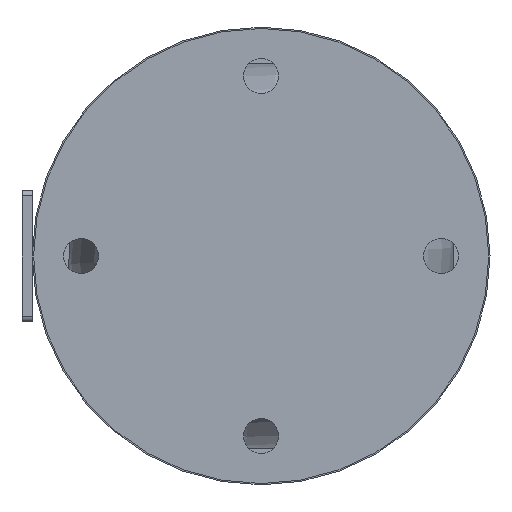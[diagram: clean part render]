
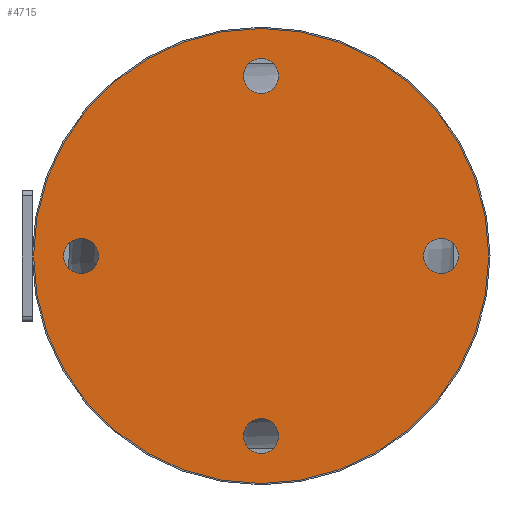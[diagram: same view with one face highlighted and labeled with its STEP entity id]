
A CAD part, front view. The second image highlights one B-rep face of the part: STEP entity #4715.
In plain terms, the highlighted planar face has unit normal (0, -1, 0).
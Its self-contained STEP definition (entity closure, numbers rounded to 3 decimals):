
#27 = VERTEX_POINT ( 'NONE', #2537 ) ;
#251 = CIRCLE ( 'NONE', #4380, 3.4 ) ;
#318 = AXIS2_PLACEMENT_3D ( 'NONE', #678, #2858, #1679 ) ;
#505 = DIRECTION ( 'NONE',  ( 0., 1., 0. ) ) ;
#524 = CIRCLE ( 'NONE', #4531, 3.4 ) ;
#606 = ORIENTED_EDGE ( 'NONE', *, *, #5813, .T. ) ;
#658 = AXIS2_PLACEMENT_3D ( 'NONE', #4307, #505, #2679 ) ;
#678 = CARTESIAN_POINT ( 'NONE',  ( 0., -1.5, 0. ) ) ;
#781 = CARTESIAN_POINT ( 'NONE',  ( 35., -1.5, 3.4 ) ) ;
#846 = EDGE_CURVE ( 'NONE', #3614, #2598, #6275, .T. ) ;
#896 = AXIS2_PLACEMENT_3D ( 'NONE', #3464, #3572, #2486 ) ;
#899 = EDGE_CURVE ( 'NONE', #6517, #6834, #2045, .T. ) ;
#971 = AXIS2_PLACEMENT_3D ( 'NONE', #3457, #5152, #5048 ) ;
#1031 = CARTESIAN_POINT ( 'NONE',  ( 0., -1.5, 35. ) ) ;
#1042 = EDGE_CURVE ( 'NONE', #4639, #1459, #524, .T. ) ;
#1151 = CARTESIAN_POINT ( 'NONE',  ( -35., -1.5, 0. ) ) ;
#1208 = CARTESIAN_POINT ( 'NONE',  ( -35., -1.5, 3.4 ) ) ;
#1336 = ORIENTED_EDGE ( 'NONE', *, *, #1781, .T. ) ;
#1459 = VERTEX_POINT ( 'NONE', #3734 ) ;
#1465 = ORIENTED_EDGE ( 'NONE', *, *, #846, .F. ) ;
#1492 = EDGE_LOOP ( 'NONE', ( #2656, #3881 ) ) ;
#1596 = DIRECTION ( 'NONE',  ( 0., 0., 1. ) ) ;
#1629 = AXIS2_PLACEMENT_3D ( 'NONE', #1031, #2105, #4366 ) ;
#1631 = DIRECTION ( 'NONE',  ( 0., 1., 0. ) ) ;
#1679 = DIRECTION ( 'NONE',  ( 0., 0., 1. ) ) ;
#1727 = EDGE_CURVE ( 'NONE', #2598, #3614, #2524, .T. ) ;
#1781 = EDGE_CURVE ( 'NONE', #2516, #2797, #251, .T. ) ;
#1867 = AXIS2_PLACEMENT_3D ( 'NONE', #5416, #2668, #6526 ) ;
#1956 = CARTESIAN_POINT ( 'NONE',  ( 0., -1.5, -31.6 ) ) ;
#2045 = CIRCLE ( 'NONE', #896, 3.4 ) ;
#2100 = CARTESIAN_POINT ( 'NONE',  ( 0., -1.5, -38.4 ) ) ;
#2102 = DIRECTION ( 'NONE',  ( 0., 0., 1. ) ) ;
#2105 = DIRECTION ( 'NONE',  ( 0., 1., 0. ) ) ;
#2151 = CARTESIAN_POINT ( 'NONE',  ( -35., -1.5, -3.4 ) ) ;
#2199 = EDGE_LOOP ( 'NONE', ( #1336, #606 ) ) ;
#2244 = EDGE_CURVE ( 'NONE', #3864, #27, #3803, .T. ) ;
#2298 = ORIENTED_EDGE ( 'NONE', *, *, #3704, .T. ) ;
#2353 = DIRECTION ( 'NONE',  ( 0., 0., 1. ) ) ;
#2383 = FACE_BOUND ( 'NONE', #1492, .T. ) ;
#2486 = DIRECTION ( 'NONE',  ( 0., 0., 1. ) ) ;
#2516 = VERTEX_POINT ( 'NONE', #1208 ) ;
#2524 = CIRCLE ( 'NONE', #6673, 44.25 ) ;
#2537 = CARTESIAN_POINT ( 'NONE',  ( 0., -1.5, 31.6 ) ) ;
#2598 = VERTEX_POINT ( 'NONE', #2896 ) ;
#2611 = EDGE_LOOP ( 'NONE', ( #5062, #2298 ) ) ;
#2634 = CARTESIAN_POINT ( 'NONE',  ( 0., -1.5, 0. ) ) ;
#2656 = ORIENTED_EDGE ( 'NONE', *, *, #899, .T. ) ;
#2663 = AXIS2_PLACEMENT_3D ( 'NONE', #6173, #3429, #2353 ) ;
#2668 = DIRECTION ( 'NONE',  ( 0., 1., 0. ) ) ;
#2679 = DIRECTION ( 'NONE',  ( 0., 0., 1. ) ) ;
#2783 = DIRECTION ( 'NONE',  ( 0., 0., 1. ) ) ;
#2797 = VERTEX_POINT ( 'NONE', #2151 ) ;
#2858 = DIRECTION ( 'NONE',  ( 0., 1., 0. ) ) ;
#2896 = CARTESIAN_POINT ( 'NONE',  ( 0., -1.5, -44.25 ) ) ;
#3429 = DIRECTION ( 'NONE',  ( 0., 1., 0. ) ) ;
#3457 = CARTESIAN_POINT ( 'NONE',  ( 35., -1.5, 0. ) ) ;
#3464 = CARTESIAN_POINT ( 'NONE',  ( 0., -1.5, -35. ) ) ;
#3486 = CARTESIAN_POINT ( 'NONE',  ( 0., -1.5, 44.25 ) ) ;
#3572 = DIRECTION ( 'NONE',  ( 0., 1., 0. ) ) ;
#3614 = VERTEX_POINT ( 'NONE', #3486 ) ;
#3704 = EDGE_CURVE ( 'NONE', #27, #3864, #4670, .T. ) ;
#3734 = CARTESIAN_POINT ( 'NONE',  ( 35., -1.5, -3.4 ) ) ;
#3803 = CIRCLE ( 'NONE', #1629, 3.4 ) ;
#3864 = VERTEX_POINT ( 'NONE', #5603 ) ;
#3881 = ORIENTED_EDGE ( 'NONE', *, *, #4093, .T. ) ;
#3979 = PLANE ( 'NONE',  #2663 ) ;
#4093 = EDGE_CURVE ( 'NONE', #6834, #6517, #4857, .T. ) ;
#4307 = CARTESIAN_POINT ( 'NONE',  ( 0., -1.5, 35. ) ) ;
#4366 = DIRECTION ( 'NONE',  ( 0., 0., 1. ) ) ;
#4380 = AXIS2_PLACEMENT_3D ( 'NONE', #1151, #7075, #2783 ) ;
#4482 = FACE_BOUND ( 'NONE', #7016, .T. ) ;
#4518 = FACE_BOUND ( 'NONE', #2199, .T. ) ;
#4531 = AXIS2_PLACEMENT_3D ( 'NONE', #6083, #6514, #1596 ) ;
#4599 = ORIENTED_EDGE ( 'NONE', *, *, #1727, .F. ) ;
#4639 = VERTEX_POINT ( 'NONE', #781 ) ;
#4670 = CIRCLE ( 'NONE', #658, 3.4 ) ;
#4715 = ADVANCED_FACE ( 'NONE', ( #2383, #4482, #6676, #4518, #6711 ), #3979, .F. ) ;
#4857 = CIRCLE ( 'NONE', #1867, 3.4 ) ;
#4870 = CIRCLE ( 'NONE', #971, 3.4 ) ;
#5048 = DIRECTION ( 'NONE',  ( 0., 0., 1. ) ) ;
#5062 = ORIENTED_EDGE ( 'NONE', *, *, #2244, .T. ) ;
#5152 = DIRECTION ( 'NONE',  ( 0., 1., 0. ) ) ;
#5188 = EDGE_CURVE ( 'NONE', #1459, #4639, #4870, .T. ) ;
#5216 = CIRCLE ( 'NONE', #5568, 3.4 ) ;
#5416 = CARTESIAN_POINT ( 'NONE',  ( 0., -1.5, -35. ) ) ;
#5418 = DIRECTION ( 'NONE',  ( 0., 1., 0. ) ) ;
#5568 = AXIS2_PLACEMENT_3D ( 'NONE', #7024, #1631, #2102 ) ;
#5603 = CARTESIAN_POINT ( 'NONE',  ( 0., -1.5, 38.4 ) ) ;
#5813 = EDGE_CURVE ( 'NONE', #2797, #2516, #5216, .T. ) ;
#6083 = CARTESIAN_POINT ( 'NONE',  ( 35., -1.5, 0. ) ) ;
#6173 = CARTESIAN_POINT ( 'NONE',  ( 0., -1.5, 0. ) ) ;
#6275 = CIRCLE ( 'NONE', #318, 44.25 ) ;
#6383 = ORIENTED_EDGE ( 'NONE', *, *, #5188, .T. ) ;
#6512 = EDGE_LOOP ( 'NONE', ( #1465, #4599 ) ) ;
#6514 = DIRECTION ( 'NONE',  ( 0., 1., 0. ) ) ;
#6517 = VERTEX_POINT ( 'NONE', #1956 ) ;
#6526 = DIRECTION ( 'NONE',  ( 0., 0., 1. ) ) ;
#6603 = DIRECTION ( 'NONE',  ( 0., 0., 1. ) ) ;
#6673 = AXIS2_PLACEMENT_3D ( 'NONE', #2634, #5418, #6603 ) ;
#6676 = FACE_BOUND ( 'NONE', #2611, .T. ) ;
#6711 = FACE_OUTER_BOUND ( 'NONE', #6512, .T. ) ;
#6792 = ORIENTED_EDGE ( 'NONE', *, *, #1042, .T. ) ;
#6834 = VERTEX_POINT ( 'NONE', #2100 ) ;
#7016 = EDGE_LOOP ( 'NONE', ( #6792, #6383 ) ) ;
#7024 = CARTESIAN_POINT ( 'NONE',  ( -35., -1.5, 0. ) ) ;
#7075 = DIRECTION ( 'NONE',  ( 0., 1., 0. ) ) ;
